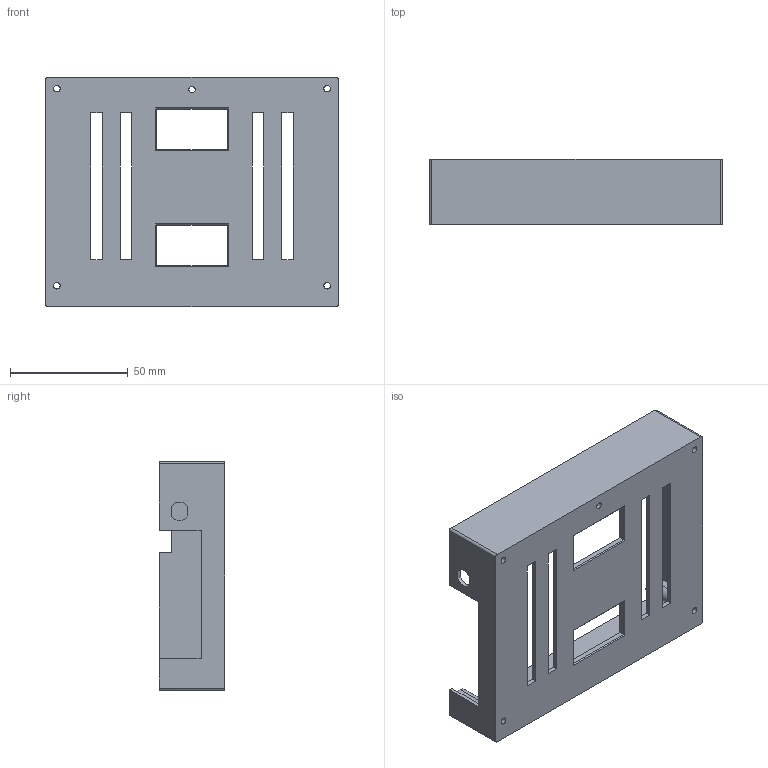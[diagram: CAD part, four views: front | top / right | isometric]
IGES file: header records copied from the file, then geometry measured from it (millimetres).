
Global section: file name: 5_in_waveshare_lcd_a_case_back v18; native system: unknown; preprocessor: unknown; author: unknown; organization: unknown; date: 20190608.115739; units: millimetre
Bounding box: 124.27 x 27.66 x 97.26 mm (x, y, z)
Volume: 46459.1 mm3; surface area: 43979 mm2
Topology: 1 solids, 1 shells, 99 faces, 259 edges, 162 vertices
Faces by surface type: bspline 99
